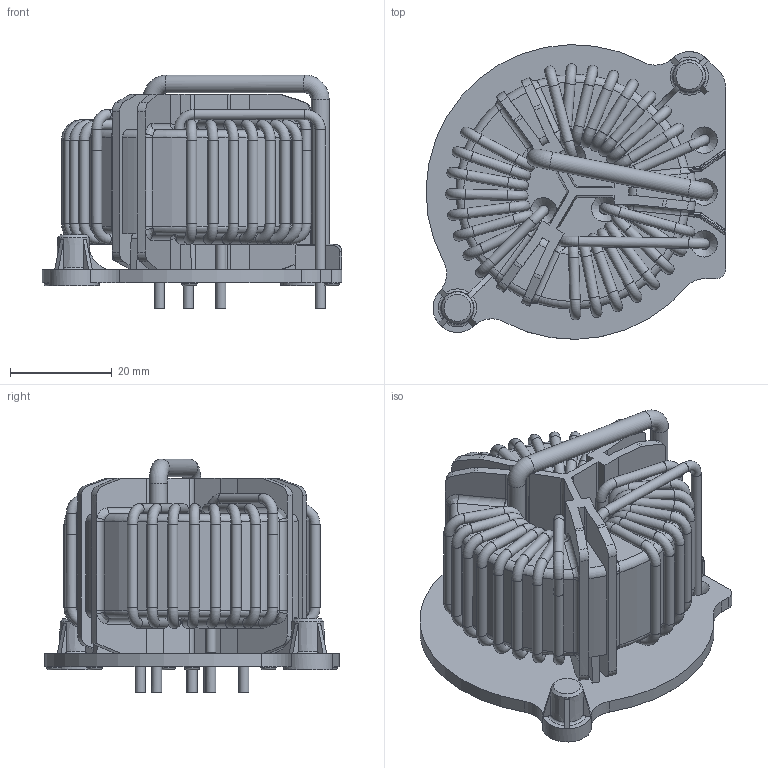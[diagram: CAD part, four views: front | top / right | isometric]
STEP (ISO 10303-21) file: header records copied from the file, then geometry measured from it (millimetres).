
FILE_DESCRIPTION((''),'2;1');
FILE_NAME('K:\Development\Projects\RB\Angel_standard choke series 2011\70_Realization_Revision\702_MechanicalDesign\Drawing for Harald\RB6132\RB6132-16-0M8 .stp','2012-11-09T13:03:44',('Fiona.chen'),(''),'Autodesk Inventor 2010','Autodesk Inventor 2010','');
FILE_SCHEMA(('AUTOMOTIVE_DESIGN { 1 0 10303 214 1 1 1 1 }'));
Length unit declared in the file: millimetre
Products named in the file (1): 零件17
Bounding box: 58.79 x 57.79 x 45.85 mm (x, y, z)
Volume: 43833.6 mm3; surface area: 31811.8 mm2
Topology: 1 solids, 1 shells, 1015 faces, 2899 edges, 1786 vertices
Faces by surface type: plane 420, cylinder 273, torus 216, bspline 74, cone 30, sphere 2
Full cylindrical faces by diameter (mm): 2 x86, 2.2 x6, 3 x9, 3.5 x2, 9.6 x2
Entity records: 37368 total; most frequent: CARTESIAN_POINT 12207, ORIENTED_EDGE 5276, DIRECTION 4607, EDGE_CURVE 2638, AXIS2_PLACEMENT_3D 1736, VERTEX_POINT 1684, EDGE_LOOP 1208, VECTOR 1135
